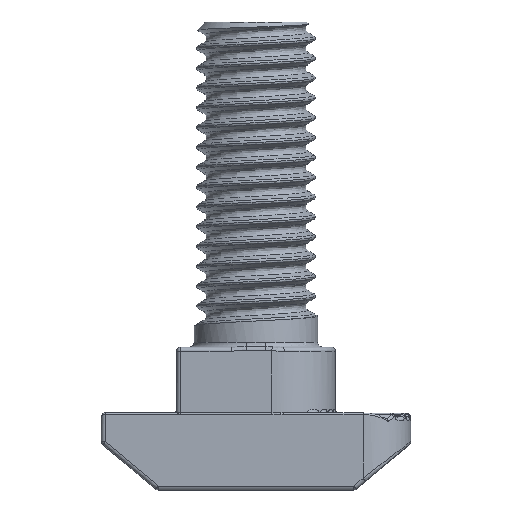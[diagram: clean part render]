
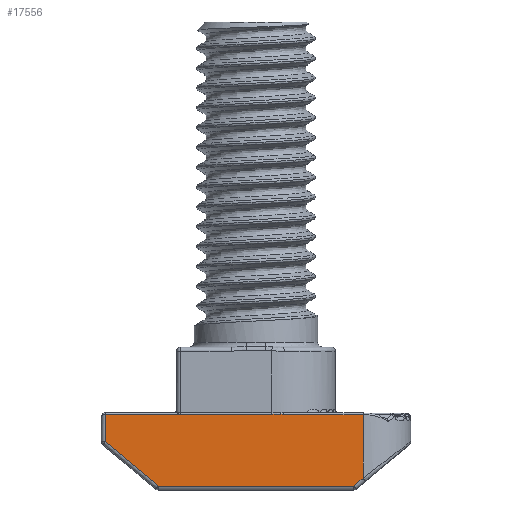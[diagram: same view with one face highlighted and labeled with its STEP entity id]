
A CAD part, front view. The second image highlights one B-rep face of the part: STEP entity #17556.
In plain terms, the highlighted planar face has unit normal (0, -1, 0).
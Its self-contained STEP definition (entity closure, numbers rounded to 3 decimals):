
#151 = EDGE_CURVE ( 'NONE', #5796, #10723, #14981, .T. ) ;
#182 = CARTESIAN_POINT ( 'NONE',  ( -5.624, -3.853, 4.767 ) ) ;
#278 = DIRECTION ( 'NONE',  ( 0., 0., -1. ) ) ;
#518 = EDGE_CURVE ( 'NONE', #605, #5079, #10127, .T. ) ;
#537 = VECTOR ( 'NONE', #8502, 1000. ) ;
#605 = VERTEX_POINT ( 'NONE', #9529 ) ;
#790 = LINE ( 'NONE', #885, #537 ) ;
#885 = CARTESIAN_POINT ( 'NONE',  ( -10.25, -3.853, 4.759 ) ) ;
#1371 = DIRECTION ( 'NONE',  ( 0., 0., 1. ) ) ;
#1456 = CARTESIAN_POINT ( 'NONE',  ( 0.817, -3.853, 4.768 ) ) ;
#1482 = CARTESIAN_POINT ( 'NONE',  ( 0.842, -3.853, 4.766 ) ) ;
#1503 = CARTESIAN_POINT ( 'NONE',  ( 0.867, -3.853, 4.764 ) ) ;
#1520 = CARTESIAN_POINT ( 'NONE',  ( 0.891, -3.853, 4.763 ) ) ;
#1541 = CARTESIAN_POINT ( 'NONE',  ( 0.92, -3.853, 4.761 ) ) ;
#1564 = CARTESIAN_POINT ( 'NONE',  ( 0.948, -3.853, 4.759 ) ) ;
#1597 = CARTESIAN_POINT ( 'NONE',  ( 0.977, -3.853, 4.759 ) ) ;
#1649 = CARTESIAN_POINT ( 'NONE',  ( 0.999, -3.853, 4.759 ) ) ;
#1695 = VECTOR ( 'NONE', #12878, 1000. ) ;
#1724 = EDGE_CURVE ( 'NONE', #12405, #9810, #790, .T. ) ;
#1742 = CARTESIAN_POINT ( 'NONE',  ( 0.992, -3.853, 4.759 ) ) ;
#1778 = CARTESIAN_POINT ( 'NONE',  ( 0.984, -3.853, 4.759 ) ) ;
#2173 = VECTOR ( 'NONE', #4866, 1000. ) ;
#2235 = ORIENTED_EDGE ( 'NONE', *, *, #4369, .T. ) ;
#2622 = LINE ( 'NONE', #17323, #2173 ) ;
#2906 = AXIS2_PLACEMENT_3D ( 'NONE', #10941, #15134, #6846 ) ;
#3055 = CARTESIAN_POINT ( 'NONE',  ( -5.658, -3.853, 4.76 ) ) ;
#3135 = ORIENTED_EDGE ( 'NONE', *, *, #5353, .T. ) ;
#3335 = CARTESIAN_POINT ( 'NONE',  ( -10.5, -3.853, 4.79 ) ) ;
#3519 = ORIENTED_EDGE ( 'NONE', *, *, #16859, .T. ) ;
#3678 = VERTEX_POINT ( 'NONE', #6592 ) ;
#3911 = CARTESIAN_POINT ( 'NONE',  ( -6.909, -3.853, 0.25 ) ) ;
#3945 = CARTESIAN_POINT ( 'NONE',  ( 0.999, -3.853, 4.759 ) ) ;
#4330 = ORIENTED_EDGE ( 'NONE', *, *, #8210, .T. ) ;
#4369 = EDGE_CURVE ( 'NONE', #9810, #605, #16696, .T. ) ;
#4388 = VERTEX_POINT ( 'NONE', #10263 ) ;
#4480 = CARTESIAN_POINT ( 'NONE',  ( 5.839, -3.853, 0.611 ) ) ;
#4520 = CARTESIAN_POINT ( 'NONE',  ( -5.669, -3.853, 4.759 ) ) ;
#4626 = ORIENTED_EDGE ( 'NONE', *, *, #518, .T. ) ;
#4826 = B_SPLINE_CURVE_WITH_KNOTS ( 'NONE', 3,
 ( #10160, #182, #11551, #3055, #12910, #4520, #14299 ),
 .UNSPECIFIED., .F., .F.,
 ( 4, 3, 4 ),
 ( 0., 0., 0. ),
 .UNSPECIFIED. ) ;
#4860 = VECTOR ( 'NONE', #13171, 1000. ) ;
#4866 = DIRECTION ( 'NONE',  ( -1., 0., 0. ) ) ;
#4942 = B_SPLINE_CURVE_WITH_KNOTS ( 'NONE', 3,
 ( #15164, #5418, #17913, #9674 ),
 .UNSPECIFIED., .F., .F.,
 ( 4, 4 ),
 ( 0., 0. ),
 .UNSPECIFIED. ) ;
#5079 = VERTEX_POINT ( 'NONE', #3911 ) ;
#5145 = CARTESIAN_POINT ( 'NONE',  ( 0.45, -3.853, 4.787 ) ) ;
#5266 = ORIENTED_EDGE ( 'NONE', *, *, #17447, .T. ) ;
#5340 = CARTESIAN_POINT ( 'NONE',  ( 5.409, -3.853, 0.25 ) ) ;
#5353 = EDGE_CURVE ( 'NONE', #4388, #12405, #4826, .T. ) ;
#5418 = CARTESIAN_POINT ( 'NONE',  ( -5.537, -3.853, 4.79 ) ) ;
#5744 = LINE ( 'NONE', #15573, #9068 ) ;
#5796 = VERTEX_POINT ( 'NONE', #3945 ) ;
#5936 = EDGE_CURVE ( 'NONE', #6633, #3678, #16287, .T. ) ;
#6160 = ORIENTED_EDGE ( 'NONE', *, *, #12281, .T. ) ;
#6415 = ORIENTED_EDGE ( 'NONE', *, *, #151, .T. ) ;
#6473 = VERTEX_POINT ( 'NONE', #5340 ) ;
#6592 = CARTESIAN_POINT ( 'NONE',  ( 6., -3.853, 4.759 ) ) ;
#6599 = CARTESIAN_POINT ( 'NONE',  ( 0.317, -3.853, 4.79 ) ) ;
#6604 = VERTEX_POINT ( 'NONE', #8555 ) ;
#6633 = VERTEX_POINT ( 'NONE', #15500 ) ;
#6846 = DIRECTION ( 'NONE',  ( 0., 0., 1. ) ) ;
#7150 = ORIENTED_EDGE ( 'NONE', *, *, #1724, .T. ) ;
#7960 = CARTESIAN_POINT ( 'NONE',  ( 0.695, -3.853, 4.777 ) ) ;
#8210 = EDGE_CURVE ( 'NONE', #17648, #4388, #4942, .T. ) ;
#8211 = LINE ( 'NONE', #3335, #4860 ) ;
#8502 = DIRECTION ( 'NONE',  ( -1., 0., 0. ) ) ;
#8555 = CARTESIAN_POINT ( 'NONE',  ( 0.25, -3.853, 4.79 ) ) ;
#8798 = EDGE_CURVE ( 'NONE', #3678, #5796, #2622, .T. ) ;
#8856 = CARTESIAN_POINT ( 'NONE',  ( -10.25, -3.853, 4.5 ) ) ;
#9068 = VECTOR ( 'NONE', #14171, 1000. ) ;
#9291 = CARTESIAN_POINT ( 'NONE',  ( 0.817, -3.853, 4.768 ) ) ;
#9529 = CARTESIAN_POINT ( 'NONE',  ( -10.25, -3.853, 3.053 ) ) ;
#9674 = CARTESIAN_POINT ( 'NONE',  ( -5.608, -3.853, 4.772 ) ) ;
#9810 = VERTEX_POINT ( 'NONE', #13904 ) ;
#9919 = VECTOR ( 'NONE', #11511, 1000. ) ;
#10127 = LINE ( 'NONE', #11616, #9919 ) ;
#10160 = CARTESIAN_POINT ( 'NONE',  ( -5.608, -3.853, 4.772 ) ) ;
#10263 = CARTESIAN_POINT ( 'NONE',  ( -5.608, -3.853, 4.772 ) ) ;
#10343 = FACE_OUTER_BOUND ( 'NONE', #15895, .T. ) ;
#10723 = VERTEX_POINT ( 'NONE', #12202 ) ;
#10941 = CARTESIAN_POINT ( 'NONE',  ( -10.5, -3.853, 4.5 ) ) ;
#11171 = CARTESIAN_POINT ( 'NONE',  ( -5.5, -3.853, 4.79 ) ) ;
#11511 = DIRECTION ( 'NONE',  ( 0.766, 0., -0.643 ) ) ;
#11551 = CARTESIAN_POINT ( 'NONE',  ( -5.641, -3.853, 4.762 ) ) ;
#11616 = CARTESIAN_POINT ( 'NONE',  ( -6.839, -3.853, 0.192 ) ) ;
#12202 = CARTESIAN_POINT ( 'NONE',  ( 0.817, -3.853, 4.768 ) ) ;
#12281 = EDGE_CURVE ( 'NONE', #6473, #6633, #16634, .T. ) ;
#12405 = VERTEX_POINT ( 'NONE', #17593 ) ;
#12621 = VECTOR ( 'NONE', #1371, 1000. ) ;
#12730 = CARTESIAN_POINT ( 'NONE',  ( 6., -3.853, 4.5 ) ) ;
#12837 = EDGE_CURVE ( 'NONE', #6604, #17648, #8211, .T. ) ;
#12878 = DIRECTION ( 'NONE',  ( 0.766, 0., 0.643 ) ) ;
#12910 = CARTESIAN_POINT ( 'NONE',  ( -5.663, -3.853, 4.759 ) ) ;
#13026 = VECTOR ( 'NONE', #278, 1000. ) ;
#13171 = DIRECTION ( 'NONE',  ( -1., 0., 0. ) ) ;
#13514 = CARTESIAN_POINT ( 'NONE',  ( 0.572, -3.853, 4.784 ) ) ;
#13743 = PLANE ( 'NONE',  #2906 ) ;
#13904 = CARTESIAN_POINT ( 'NONE',  ( -10.25, -3.853, 4.759 ) ) ;
#14171 = DIRECTION ( 'NONE',  ( 1., 0., 0. ) ) ;
#14299 = CARTESIAN_POINT ( 'NONE',  ( -5.674, -3.853, 4.759 ) ) ;
#14899 = CARTESIAN_POINT ( 'NONE',  ( 0.383, -3.853, 4.789 ) ) ;
#14981 = B_SPLINE_CURVE_WITH_KNOTS ( 'NONE', 3,
 ( #1649, #1742, #1778, #1597, #1564, #1541, #1520, #1503, #1482, #1456 ),
 .UNSPECIFIED., .F., .F.,
 ( 4, 3, 3, 4 ),
 ( 0., 0., 0., 0. ),
 .UNSPECIFIED. ) ;
#15134 = DIRECTION ( 'NONE',  ( 0., 1., 0. ) ) ;
#15164 = CARTESIAN_POINT ( 'NONE',  ( -5.5, -3.853, 4.79 ) ) ;
#15309 = ORIENTED_EDGE ( 'NONE', *, *, #8798, .T. ) ;
#15318 = ORIENTED_EDGE ( 'NONE', *, *, #5936, .T. ) ;
#15500 = CARTESIAN_POINT ( 'NONE',  ( 6., -3.853, 0.746 ) ) ;
#15573 = CARTESIAN_POINT ( 'NONE',  ( -10.5, -3.853, 0.25 ) ) ;
#15895 = EDGE_LOOP ( 'NONE', ( #15318, #15309, #6415, #5266, #17267, #4330, #3135, #7150, #2235, #4626, #3519, #6160 ) ) ;
#16283 = CARTESIAN_POINT ( 'NONE',  ( 0.25, -3.853, 4.79 ) ) ;
#16287 = LINE ( 'NONE', #12730, #12621 ) ;
#16590 = B_SPLINE_CURVE_WITH_KNOTS ( 'NONE', 3,
 ( #9291, #7960, #13514, #5145, #14899, #6599, #16283 ),
 .UNSPECIFIED., .F., .F.,
 ( 4, 3, 4 ),
 ( 0., 0., 0.001 ),
 .UNSPECIFIED. ) ;
#16634 = LINE ( 'NONE', #4480, #1695 ) ;
#16696 = LINE ( 'NONE', #8856, #13026 ) ;
#16859 = EDGE_CURVE ( 'NONE', #5079, #6473, #5744, .T. ) ;
#17267 = ORIENTED_EDGE ( 'NONE', *, *, #12837, .T. ) ;
#17323 = CARTESIAN_POINT ( 'NONE',  ( 6., -3.853, 4.759 ) ) ;
#17447 = EDGE_CURVE ( 'NONE', #10723, #6604, #16590, .T. ) ;
#17556 = ADVANCED_FACE ( 'NONE', ( #10343 ), #13743, .F. ) ;
#17593 = CARTESIAN_POINT ( 'NONE',  ( -5.674, -3.853, 4.759 ) ) ;
#17648 = VERTEX_POINT ( 'NONE', #11171 ) ;
#17913 = CARTESIAN_POINT ( 'NONE',  ( -5.573, -3.853, 4.784 ) ) ;
